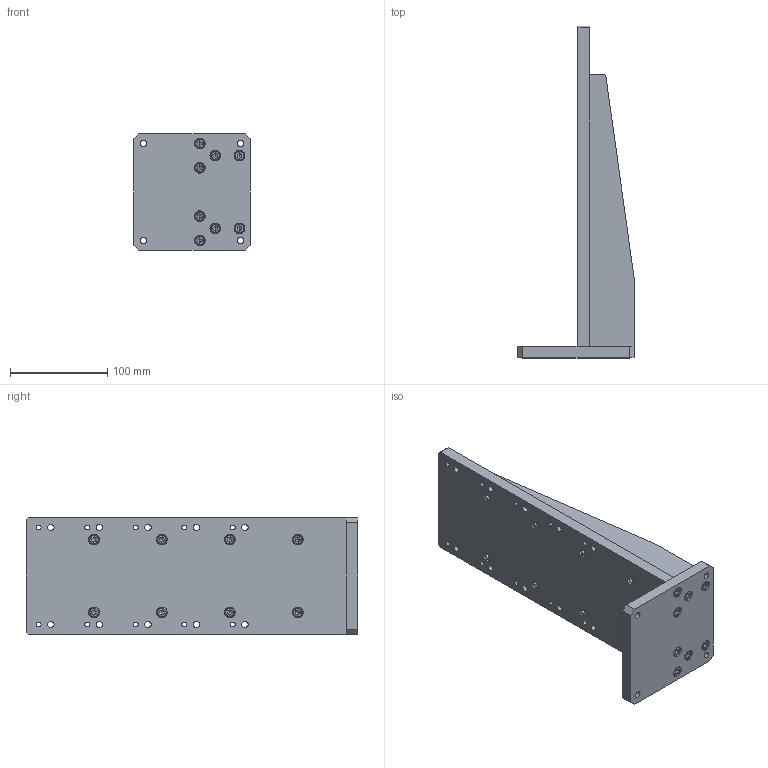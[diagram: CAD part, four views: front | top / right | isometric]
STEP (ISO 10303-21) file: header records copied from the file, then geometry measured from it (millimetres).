
FILE_DESCRIPTION (( 'STEP AP203' ), '1' );
FILE_NAME ('PHOB-A120C.step', '2019-05-08T10:19:31', ( '' ), ( '' ), 'SwSTEP 2.0', 'SolidWorks 2017', '' );
FILE_SCHEMA (( 'CONFIG_CONTROL_DESIGN' ));
Length unit declared in the file: millimetre
Products named in the file (1): PHOB-A120C
Bounding box: 120 x 342 x 120 mm (x, y, z)
Surface area: 178596.9 mm2 (no closed solid volume)
Topology: 0 solids, 33 shells, 354 faces, 1300 edges, 936 vertices
Faces by surface type: plane 182, cylinder 108, torus 32, cone 32
Entity records: 13782 total; most frequent: CARTESIAN_POINT 2559, DIRECTION 2402, ORIENTED_EDGE 1957, EDGE_CURVE 1268, VERTEX_POINT 936, VECTOR 844, LINE 844, AXIS2_PLACEMENT_3D 779
